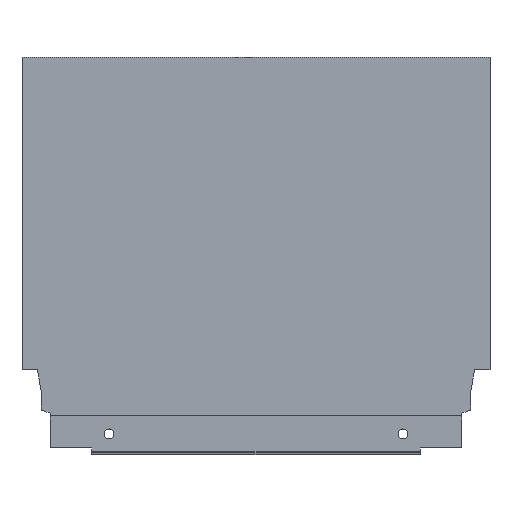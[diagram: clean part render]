
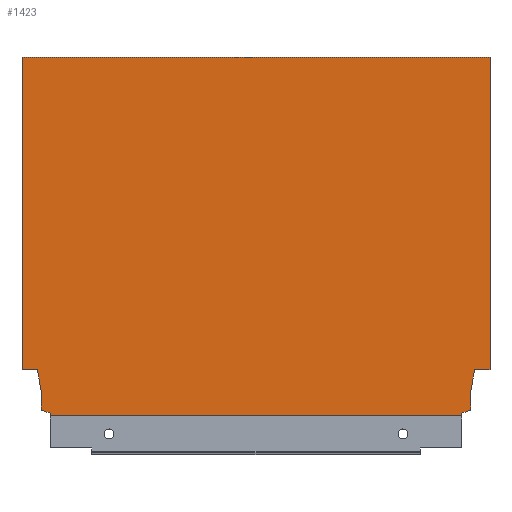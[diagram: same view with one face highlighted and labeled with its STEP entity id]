
A CAD part, top view. The second image highlights one B-rep face of the part: STEP entity #1423.
In plain terms, the highlighted planar face has unit normal (0, 0, 1).
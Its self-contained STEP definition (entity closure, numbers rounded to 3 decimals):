
#36 = VECTOR ( 'NONE', #1334, 1000. ) ;
#38 = VECTOR ( 'NONE', #1337, 1000. ) ;
#40 = VECTOR ( 'NONE', #1340, 1000. ) ;
#41 = LINE ( 'NONE', #1339, #36 ) ;
#42 = VECTOR ( 'NONE', #1344, 1000. ) ;
#43 = VECTOR ( 'NONE', #1347, 1000. ) ;
#44 = LINE ( 'NONE', #1348, #43 ) ;
#45 = LINE ( 'NONE', #1342, #38 ) ;
#46 = VECTOR ( 'NONE', #1349, 1000. ) ;
#47 = VECTOR ( 'NONE', #1353, 1000. ) ;
#48 = VECTOR ( 'NONE', #1356, 1000. ) ;
#49 = LINE ( 'NONE', #1358, #48 ) ;
#50 = VECTOR ( 'NONE', #1359, 1000. ) ;
#51 = LINE ( 'NONE', #1361, #50 ) ;
#52 = VECTOR ( 'NONE', #1371, 1000. ) ;
#53 = LINE ( 'NONE', #1345, #40 ) ;
#54 = VECTOR ( 'NONE', #1366, 1000. ) ;
#55 = LINE ( 'NONE', #1351, #42 ) ;
#56 = VECTOR ( 'NONE', #1363, 1000. ) ;
#63 = LINE ( 'NONE', #1367, #54 ) ;
#64 = LINE ( 'NONE', #1355, #46 ) ;
#66 = LINE ( 'NONE', #1372, #52 ) ;
#67 = LINE ( 'NONE', #1365, #47 ) ;
#68 = VECTOR ( 'NONE', #1374, 1000. ) ;
#70 = LINE ( 'NONE', #1390, #68 ) ;
#72 = VECTOR ( 'NONE', #1377, 1000. ) ;
#74 = LINE ( 'NONE', #1379, #72 ) ;
#77 = LINE ( 'NONE', #1369, #56 ) ;
#115 = EDGE_LOOP ( 'NONE', ( #370, #350, #369, #368, #438, #349, #329, #348, #387, #318, #391, #334, #383, #380 ) ) ;
#238 = FACE_OUTER_BOUND ( 'NONE', #115, .T. ) ;
#318 = ORIENTED_EDGE ( 'NONE', *, *, #864, .F. ) ;
#329 = ORIENTED_EDGE ( 'NONE', *, *, #856, .T. ) ;
#334 = ORIENTED_EDGE ( 'NONE', *, *, #868, .F. ) ;
#348 = ORIENTED_EDGE ( 'NONE', *, *, #865, .F. ) ;
#349 = ORIENTED_EDGE ( 'NONE', *, *, #857, .F. ) ;
#350 = ORIENTED_EDGE ( 'NONE', *, *, #861, .F. ) ;
#368 = ORIENTED_EDGE ( 'NONE', *, *, #863, .F. ) ;
#369 = ORIENTED_EDGE ( 'NONE', *, *, #858, .F. ) ;
#370 = ORIENTED_EDGE ( 'NONE', *, *, #862, .T. ) ;
#380 = ORIENTED_EDGE ( 'NONE', *, *, #870, .F. ) ;
#383 = ORIENTED_EDGE ( 'NONE', *, *, #869, .F. ) ;
#387 = ORIENTED_EDGE ( 'NONE', *, *, #867, .F. ) ;
#391 = ORIENTED_EDGE ( 'NONE', *, *, #866, .F. ) ;
#438 = ORIENTED_EDGE ( 'NONE', *, *, #860, .F. ) ;
#557 = CARTESIAN_POINT ( 'NONE',  ( -215., 21.2, 7.5 ) ) ;
#561 = CARTESIAN_POINT ( 'NONE',  ( -201.996, 1.146, 7.5 ) ) ;
#566 = CARTESIAN_POINT ( 'NONE',  ( -201.996, 0., 7.5 ) ) ;
#568 = CARTESIAN_POINT ( 'NONE',  ( 0., 164.7, 7.5 ) ) ;
#574 = CARTESIAN_POINT ( 'NONE',  ( -215., 164.7, 7.5 ) ) ;
#735 = DIRECTION ( 'NONE',  ( 1., 0., 0. ) ) ;
#736 = DIRECTION ( 'NONE',  ( 0., 0., 1. ) ) ;
#742 = CARTESIAN_POINT ( 'NONE',  ( -215., 0., 7.5 ) ) ;
#745 = PLANE ( 'NONE',  #1017 ) ;
#778 = CARTESIAN_POINT ( 'NONE',  ( -206.1, 10.765, 7.5 ) ) ;
#795 = CARTESIAN_POINT ( 'NONE',  ( -207.94, 21.2, 7.5 ) ) ;
#796 = CARTESIAN_POINT ( 'NONE',  ( -8.9, 10.765, 7.5 ) ) ;
#797 = CARTESIAN_POINT ( 'NONE',  ( -206.1, 2.64, 7.5 ) ) ;
#798 = CARTESIAN_POINT ( 'NONE',  ( -13.004, 0., 7.5 ) ) ;
#804 = CARTESIAN_POINT ( 'NONE',  ( 0., 21.2, 7.5 ) ) ;
#813 = CARTESIAN_POINT ( 'NONE',  ( -7.06, 21.2, 7.5 ) ) ;
#819 = CARTESIAN_POINT ( 'NONE',  ( -8.9, 2.64, 7.5 ) ) ;
#829 = CARTESIAN_POINT ( 'NONE',  ( -13.004, 1.146, 7.5 ) ) ;
#856 = EDGE_CURVE ( 'NONE', #1210, #1200, #74, .T. ) ;
#857 = EDGE_CURVE ( 'NONE', #1210, #1226, #70, .T. ) ;
#858 = EDGE_CURVE ( 'NONE', #1382, #1341, #66, .T. ) ;
#860 = EDGE_CURVE ( 'NONE', #1226, #1336, #63, .T. ) ;
#861 = EDGE_CURVE ( 'NONE', #1341, #1238, #77, .T. ) ;
#862 = EDGE_CURVE ( 'NONE', #1186, #1238, #51, .T. ) ;
#863 = EDGE_CURVE ( 'NONE', #1336, #1382, #49, .T. ) ;
#864 = EDGE_CURVE ( 'NONE', #1338, #1277, #67, .T. ) ;
#865 = EDGE_CURVE ( 'NONE', #1250, #1200, #64, .T. ) ;
#866 = EDGE_CURVE ( 'NONE', #1293, #1338, #44, .T. ) ;
#867 = EDGE_CURVE ( 'NONE', #1277, #1250, #55, .T. ) ;
#868 = EDGE_CURVE ( 'NONE', #1317, #1293, #53, .T. ) ;
#869 = EDGE_CURVE ( 'NONE', #1215, #1317, #45, .T. ) ;
#870 = EDGE_CURVE ( 'NONE', #1186, #1215, #41, .T. ) ;
#1017 = AXIS2_PLACEMENT_3D ( 'NONE', #742, #736, #735 ) ;
#1186 = VERTEX_POINT ( 'NONE', #574 ) ;
#1200 = VERTEX_POINT ( 'NONE', #798 ) ;
#1210 = VERTEX_POINT ( 'NONE', #566 ) ;
#1215 = VERTEX_POINT ( 'NONE', #568 ) ;
#1226 = VERTEX_POINT ( 'NONE', #561 ) ;
#1238 = VERTEX_POINT ( 'NONE', #557 ) ;
#1250 = VERTEX_POINT ( 'NONE', #829 ) ;
#1277 = VERTEX_POINT ( 'NONE', #819 ) ;
#1293 = VERTEX_POINT ( 'NONE', #813 ) ;
#1317 = VERTEX_POINT ( 'NONE', #804 ) ;
#1334 = DIRECTION ( 'NONE',  ( 1., 0., 0. ) ) ;
#1336 = VERTEX_POINT ( 'NONE', #797 ) ;
#1337 = DIRECTION ( 'NONE',  ( 0., -1., 0. ) ) ;
#1338 = VERTEX_POINT ( 'NONE', #796 ) ;
#1339 = CARTESIAN_POINT ( 'NONE',  ( -215., 164.7, 7.5 ) ) ;
#1340 = DIRECTION ( 'NONE',  ( -1., 0., 0. ) ) ;
#1341 = VERTEX_POINT ( 'NONE', #795 ) ;
#1342 = CARTESIAN_POINT ( 'NONE',  ( 0., 0., 7.5 ) ) ;
#1344 = DIRECTION ( 'NONE',  ( -0.94, -0.342, 0. ) ) ;
#1345 = CARTESIAN_POINT ( 'NONE',  ( 0., 21.2, 7.5 ) ) ;
#1347 = DIRECTION ( 'NONE',  ( -0.174, -0.985, 0. ) ) ;
#1348 = CARTESIAN_POINT ( 'NONE',  ( -7.06, 21.2, 7.5 ) ) ;
#1349 = DIRECTION ( 'NONE',  ( 0., -1., 0. ) ) ;
#1351 = CARTESIAN_POINT ( 'NONE',  ( -8.9, 2.64, 7.5 ) ) ;
#1353 = DIRECTION ( 'NONE',  ( 0., -1., 0. ) ) ;
#1355 = CARTESIAN_POINT ( 'NONE',  ( -13.004, 1.146, 7.5 ) ) ;
#1356 = DIRECTION ( 'NONE',  ( 0., 1., 0. ) ) ;
#1358 = CARTESIAN_POINT ( 'NONE',  ( -206.1, 10.765, 7.5 ) ) ;
#1359 = DIRECTION ( 'NONE',  ( 0., -1., 0. ) ) ;
#1361 = CARTESIAN_POINT ( 'NONE',  ( -215., 0., 7.5 ) ) ;
#1363 = DIRECTION ( 'NONE',  ( -1., 0., 0. ) ) ;
#1365 = CARTESIAN_POINT ( 'NONE',  ( -8.9, 10.765, 7.5 ) ) ;
#1366 = DIRECTION ( 'NONE',  ( -0.94, 0.342, 0. ) ) ;
#1367 = CARTESIAN_POINT ( 'NONE',  ( -206.1, 2.64, 7.5 ) ) ;
#1369 = CARTESIAN_POINT ( 'NONE',  ( -220., 21.2, 7.5 ) ) ;
#1371 = DIRECTION ( 'NONE',  ( -0.174, 0.985, 0. ) ) ;
#1372 = CARTESIAN_POINT ( 'NONE',  ( -207.94, 21.2, 7.5 ) ) ;
#1374 = DIRECTION ( 'NONE',  ( 0., 1., 0. ) ) ;
#1377 = DIRECTION ( 'NONE',  ( 1., 0., 0. ) ) ;
#1379 = CARTESIAN_POINT ( 'NONE',  ( -215., 0., 7.5 ) ) ;
#1382 = VERTEX_POINT ( 'NONE', #778 ) ;
#1390 = CARTESIAN_POINT ( 'NONE',  ( -201.996, 1.146, 7.5 ) ) ;
#1423 = ADVANCED_FACE ( 'NONE', ( #238 ), #745, .T. ) ;
